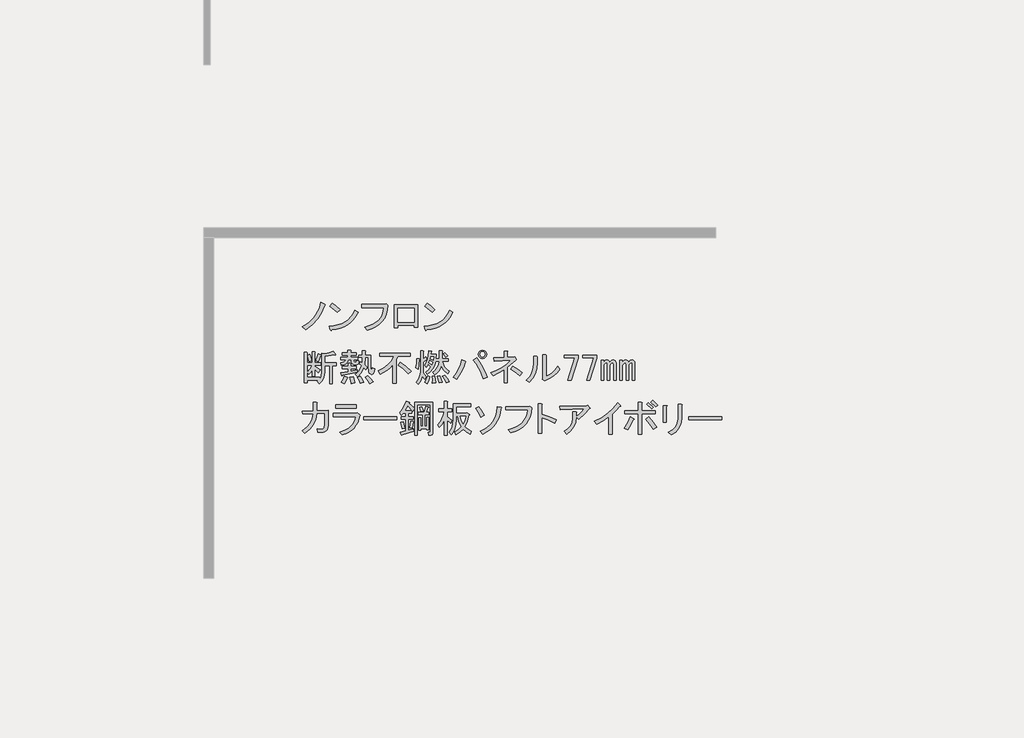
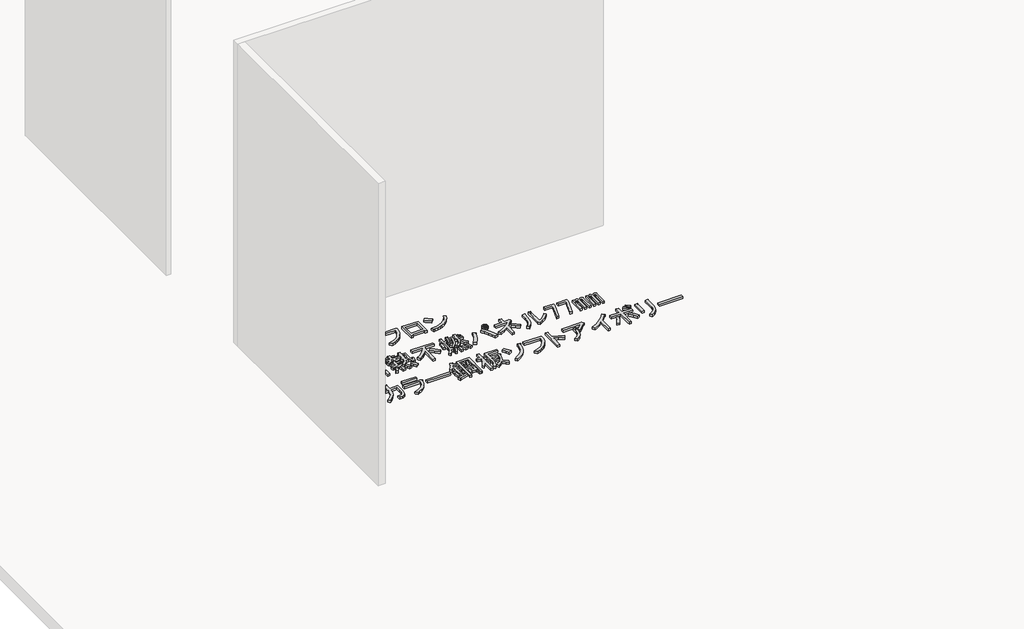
# One storey, part 6 of 117: 1 proxy.
"""IFC4 building model written with IfcOpenShell, lengths in millimetres."""

from ifc_helpers import new_model, si_unit, frame, origin, place, context, project, spatial, polyline, outline, extrude, element, save

model = new_model("IFC4")

# Units and contexts
model_context = context("Model", 3, world=origin())
ifc_project = project(units=[si_unit("LENGTHUNIT", "METRE", prefix="MILLI")], contexts=[model_context])

# Site, building, storey
site = spatial("IfcSite", under=ifc_project)
building = spatial("IfcBuilding", under=site)
storey = spatial("IfcBuildingStorey", under=building, Name="レベル 1", Elevation=500.0)

# Proxy
placement = place(None, origin())
element("IfcBuildingElementProxy", 1, Name="200㎜\u3000MS Pゴシック", ObjectType="200㎜\u3000MS Pゴシック", at=placement, inside=storey, context=model_context, shape_type="SweptSolid", body=[
    extrude(outline(polyline([(-23056.3293015, -28607.0496882), (-23081.9047498, -28666.8215225), (-23110.353844, -28712.7998566), (-23152.0217093, -28758.2034615), (-23201.1610538, -28795.560858), (-23228.7480543, -28773.7211493), (-23181.0455327, -28743.2605029), (-23141.3892195, -28704.7536481), (-23124.0036619, -28680.8305462), (-23108.6296565, -28652.7406577), (-23095.2672031, -28620.4839827), (-23083.9163019, -28584.0605212), (-23052.8809264, -28597.8540214), (-23049.7199159, -28602.4518548), (-23056.3293015, -28607.0496882)])), frame((0.0, 0.0, 500.0), z_axis=(0.0, 0.0, 1.0), x_axis=(1.0, 0.0, 0.0)), (0.0, 0.0, 1.0), 25.0),
    extrude(outline(polyline([(-22956.6022948, -28662.2236891), (-23015.2246708, -28615.0958967), (-22995.6838788, -28590.9572713), (-22968.3842429, -28610.7854279), (-22934.7625862, -28640.3839804), (-22956.6022948, -28662.2236891)])), frame((0.0, 0.0, 500.0), z_axis=(0.0, 0.0, 1.0), x_axis=(1.0, 0.0, 0.0)), (0.0, 0.0, 1.0), 25.0),
    extrude(outline(polyline([(-22794.5286672, -28662.2236891), (-22811.052131, -28691.965924), (-22830.1618761, -28717.9724192), (-22851.8579025, -28740.2431748), (-22876.1402102, -28758.7781907), (-22903.0087992, -28773.577467), (-22932.4636694, -28784.6410036), (-22964.504821, -28791.9688006), (-22999.1322539, -28795.560858), (-23004.8795456, -28803.6070664), (-23010.6268374, -28797.8597747), (-23019.8225042, -28767.9738575), (-22983.9917321, -28765.2977748), (-22951.2142088, -28758.9937141), (-22921.4899342, -28749.0616756), (-22894.8189084, -28735.5016591), (-22871.2011313, -28718.3136646), (-22850.636603, -28697.4976923), (-22833.1253234, -28673.053742), (-22818.6672926, -28644.9818138), (-22794.5286672, -28662.2236891)])), frame((0.0, 0.0, 500.0), z_axis=(0.0, 0.0, 1.0), x_axis=(1.0, 0.0, 0.0)), (0.0, 0.0, 1.0), 25.0),
    extrude(outline(polyline([(-22743.7685864, -28777.1695243), (-22709.985287, -28767.4889298), (-22680.4765359, -28755.1142922), (-22655.242333, -28740.0456116), (-22634.2826783, -28722.282888), (-22617.597572, -28701.8261214), (-22605.1870138, -28678.6753118), (-22597.0510039, -28652.8304591), (-22593.1895423, -28624.2915635), (-22765.6082951, -28624.2915635), (-22765.6082951, -28599.0034798), (-22590.8906256, -28599.0034798), (-22574.7982086, -28595.5551047), (-22562.1541668, -28607.0496882), (-22565.674383, -28643.5449909), (-22573.9361149, -28676.5919185), (-22586.9393625, -28706.1904711), (-22604.6841258, -28732.3406486), (-22627.1704048, -28755.042451), (-22654.3981995, -28774.2958784), (-22686.3675099, -28790.1009308), (-22723.078336, -28802.4576081), (-22743.7685864, -28777.1695243)])), frame((0.0, 0.0, 500.0), z_axis=(0.0, 0.0, 1.0), x_axis=(1.0, 0.0, 0.0)), (0.0, 0.0, 1.0), 25.0),
    extrude(outline(polyline([(-22329.044013, -28776.020066), (-22355.4815551, -28776.020066), (-22355.4815551, -28763.3760241), (-22483.0714321, -28763.3760241), (-22483.0714321, -28781.7673577), (-22509.5089742, -28781.7673577), (-22509.5089742, -28602.4518548), (-22329.044013, -28602.4518548), (-22329.044013, -28776.020066)]), holes=[polyline([(-22483.0714321, -28627.7399386), (-22483.0714321, -28738.0879404), (-22355.4815551, -28738.0879404), (-22355.4815551, -28627.7399386), (-22483.0714321, -28627.7399386)])]), frame((0.0, 0.0, 500.0), z_axis=(0.0, 0.0, 1.0), x_axis=(1.0, 0.0, 0.0)), (0.0, 0.0, 1.0), 25.0),
    extrude(outline(polyline([(-22052.9900951, -28662.2236891), (-22069.5135589, -28691.965924), (-22088.623304, -28717.9724192), (-22110.3193304, -28740.2431748), (-22134.6016381, -28758.7781907), (-22161.4702271, -28773.577467), (-22190.9250974, -28784.6410036), (-22222.9662489, -28791.9688006), (-22257.5936818, -28795.560858), (-22263.3409736, -28803.6070664), (-22269.0882653, -28797.8597747), (-22278.2839321, -28767.9738575), (-22242.4531601, -28765.2977748), (-22209.6756367, -28758.9937141), (-22179.9513622, -28749.0616756), (-22153.2803363, -28735.5016591), (-22129.6625593, -28718.3136646), (-22109.0980309, -28697.4976923), (-22091.5867514, -28673.053742), (-22077.1287205, -28644.9818138), (-22052.9900951, -28662.2236891)])), frame((0.0, 0.0, 500.0), z_axis=(0.0, 0.0, 1.0), x_axis=(1.0, 0.0, 0.0)), (0.0, 0.0, 1.0), 25.0),
    extrude(outline(polyline([(-22215.0637228, -28662.2236891), (-22273.6860987, -28615.0958967), (-22254.1453067, -28590.9572713), (-22226.8456709, -28610.7854279), (-22193.2240141, -28640.3839804), (-22215.0637228, -28662.2236891)])), frame((0.0, 0.0, 500.0), z_axis=(0.0, 0.0, 1.0), x_axis=(1.0, 0.0, 0.0)), (0.0, 0.0, 1.0), 25.0),
    extrude(outline(polyline([(-23122.9978859, -29039.2345221), (-23105.7560106, -28986.3594379), (-23085.0657603, -28992.1067296), (-23083.3415727, -28995.2677401), (-23087.364677, -28997.8540214), (-23104.6065523, -29046.1312722), (-23122.9978859, -29039.2345221)])), frame((0.0, 0.0, 500.0), z_axis=(0.0, 0.0, 1.0), x_axis=(1.0, 0.0, 0.0)), (0.0, 0.0, 1.0), 25.0),
    extrude(outline(polyline([(-22968.9704667, -28990.9572713), (-22970.6946542, -28995.5551047), (-22978.1661335, -28993.256188), (-23055.1798431, -29005.9002299), (-23055.1798431, -29055.326939), (-22963.2231749, -29055.326939), (-22963.2231749, -29077.1666477), (-22994.2585505, -29077.1666477), (-22994.2585505, -29217.4005666), (-23017.2477175, -29217.4005666), (-23017.2477175, -29077.1666477), (-23055.1798431, -29077.1666477), (-23055.1798431, -29126.5933568), (-23057.7661244, -29154.3958807), (-23065.5249683, -29179.1810764), (-23078.4563747, -29200.948944), (-23096.5603438, -29219.6994833), (-23113.8022191, -29200.1586914), (-23103.4570939, -29190.9630245), (-23193.1148454, -29190.9630245), (-23193.1148454, -29212.8027332), (-23216.1040124, -29212.8027332), (-23216.1040124, -28973.715396), (-23194.2643037, -28973.715396), (-23189.3791057, -28976.0143127), (-23193.1148454, -28980.6121461), (-23193.1148454, -29056.4763974), (-23150.5848863, -29056.4763974), (-23150.5848863, -28969.1175626), (-23132.1935527, -28969.1175626), (-23127.3083547, -28971.4164793), (-23131.0440943, -28976.0143127), (-23131.0440943, -29056.4763974), (-23087.364677, -29056.4763974), (-23087.364677, -29074.867731), (-23131.0440943, -29074.867731), (-23131.0440943, -29084.0633978), (-23090.813052, -29110.5009399), (-23104.6065523, -29132.3406486), (-23131.0440943, -29105.9031065), (-23131.0440943, -29158.7781907), (-23150.5848863, -29158.7781907), (-23150.5848863, -29110.5009399), (-23163.8036574, -29130.3290965), (-23178.1718868, -29146.1341488), (-23190.8159287, -29127.7428152), (-23168.97622, -29103.6041898), (-23151.7343447, -29074.867731), (-23193.1148454, -29074.867731), (-23193.1148454, -29169.1233159), (-23095.4108854, -29169.1233159), (-23095.4108854, -29182.9168161), (-23082.479479, -29158.7781907), (-23078.1690102, -29125.4438985), (-23078.1690102, -28980.6121461), (-23056.3293015, -28986.3594379), (-23020.1213634, -28978.8879586), (-22989.660717, -28965.6691875), (-22968.9704667, -28990.9572713)])), frame((0.0, 0.0, 500.0), z_axis=(0.0, 0.0, 1.0), x_axis=(1.0, 0.0, 0.0)), (0.0, 0.0, 1.0), 25.0),
    extrude(outline(polyline([(-23177.0224284, -29047.2807305), (-23189.6664703, -28996.7045631), (-23170.1256783, -28989.8078129), (-23162.3668344, -29013.9464383), (-23157.4816364, -29040.3839804), (-23177.0224284, -29047.2807305)])), frame((0.0, 0.0, 500.0), z_axis=(0.0, 0.0, 1.0), x_axis=(1.0, 0.0, 0.0)), (0.0, 0.0, 1.0), 25.0),
    extrude(outline(polyline([(-22878.1632569, -29167.9738575), (-22874.7148818, -29172.8590555), (-22880.4621736, -29176.020066), (-22890.2325696, -29201.5955143), (-22901.1524239, -29220.8489417), (-22924.141591, -29209.3543582), (-22911.4975491, -29185.790462), (-22901.1524239, -29158.7781907), (-22878.1632569, -29167.9738575)])), frame((0.0, 0.0, 500.0), z_axis=(0.0, 0.0, 1.0), x_axis=(1.0, 0.0, 0.0)), (0.0, 0.0, 1.0), 25.0),
    extrude(outline(polyline([(-22833.3343812, -29163.3760241), (-22823.2766206, -29190.67566), (-22818.3914226, -29212.8027332), (-22847.1278814, -29218.550025), (-22849.7141627, -29196.9976809), (-22857.4730066, -29166.8243992), (-22833.3343812, -29163.3760241)])), frame((0.0, 0.0, 500.0), z_axis=(0.0, 0.0, 1.0), x_axis=(1.0, 0.0, 0.0)), (0.0, 0.0, 1.0), 25.0),
    extrude(outline(polyline([(-22718.388546, -29157.6287323), (-22693.6751914, -29178.8937119), (-22674.7091286, -29203.6070664), (-22701.1466707, -29218.550025), (-22720.4000981, -29188.9514724), (-22739.0787963, -29169.1233159), (-22718.388546, -29157.6287323)])), frame((0.0, 0.0, 500.0), z_axis=(0.0, 0.0, 1.0), x_axis=(1.0, 0.0, 0.0)), (0.0, 0.0, 1.0), 25.0),
    extrude(outline(polyline([(-22777.0109219, -29216.2511083), (-22785.344495, -29191.5377537), (-22798.8506306, -29170.2727742), (-22778.1603803, -29162.2265657), (-22761.2058696, -29183.7789098), (-22749.4239215, -29207.0554415), (-22777.0109219, -29216.2511083)])), frame((0.0, 0.0, 500.0), z_axis=(0.0, 0.0, 1.0), x_axis=(1.0, 0.0, 0.0)), (0.0, 0.0, 1.0), 25.0),
    extrude(outline(polyline([(-22916.0953825, -29153.0308989), (-22918.1069346, -29157.9160969), (-22921.8426743, -29156.479274), (-22927.589966, -29132.3406486), (-22872.4159651, -29124.2944401), (-22872.4159651, -29101.3052731), (-22916.0953825, -29101.3052731), (-22916.0953825, -29082.9139395), (-22872.4159651, -29082.9139395), (-22872.4159651, -29059.9247724), (-22854.0246315, -29059.9247724), (-22849.1394335, -29062.2236891), (-22852.8751732, -29066.8215225), (-22852.8751732, -29082.9139395), (-22808.0462974, -29082.9139395), (-22808.0462974, -29101.3052731), (-22852.8751732, -29101.3052731), (-22852.8751732, -29120.8460651), (-22802.2990057, -29111.6503983), (-22802.2990057, -29127.7428152), (-22916.0953825, -29153.0308989)])), frame((0.0, 0.0, 500.0), z_axis=(0.0, 0.0, 1.0), x_axis=(1.0, 0.0, 0.0)), (0.0, 0.0, 1.0), 25.0),
    extrude(outline(polyline([(-22845.978423, -29031.1883136), (-22871.2665068, -29031.1883136), (-22875.8643402, -29048.6457123), (-22886.2094654, -29061.9363245), (-22902.3018823, -29071.0601502), (-22924.141591, -29076.0171893), (-22928.7394244, -29056.4763974), (-22903.4513406, -29047.8554597), (-22895.9798614, -29040.5276627), (-22891.9567571, -29031.1883136), (-22927.589966, -29031.1883136), (-22927.589966, -29012.79698), (-22873.5654235, -29012.79698), (-22873.5654235, -28995.5551047), (-22917.2448409, -28995.5551047), (-22917.2448409, -28977.1637711), (-22873.5654235, -28977.1637711), (-22873.5654235, -28958.7724374), (-22851.7257148, -28958.7724374), (-22846.8405168, -28961.0713541), (-22850.5762564, -28965.6691875), (-22850.5762564, -28977.1637711), (-22808.0462974, -28977.1637711), (-22808.0462974, -28995.5551047), (-22850.5762564, -28995.5551047), (-22850.5762564, -29012.79698), (-22797.7011723, -29012.79698), (-22797.7011723, -29031.1883136), (-22826.4376311, -29031.1883136), (-22826.4376311, -29043.8323555), (-22825.0008081, -29049.0049181), (-22820.6903393, -29050.7291056), (-22810.3452141, -29050.7291056), (-22806.6094745, -29047.5680951), (-22806.8968391, -29038.0850637), (-22787.3560471, -29040.3839804), (-22790.229693, -29061.9363245), (-22795.5459378, -29067.3244106), (-22803.448464, -29069.1204392), (-22827.5870894, -29069.1204392), (-22841.3805896, -29064.2352412), (-22845.978423, -29049.5796472), (-22845.978423, -29031.1883136)])), frame((0.0, 0.0, 500.0), z_axis=(0.0, 0.0, 1.0), x_axis=(1.0, 0.0, 0.0)), (0.0, 0.0, 1.0), 25.0),
    extrude(outline(polyline([(-22714.9401709, -29013.9464383), (-22736.7798796, -29013.9464383), (-22741.377713, -29071.4193559), (-22721.836921, -29089.8106896), (-22732.1820462, -29111.6503983), (-22748.2744631, -29095.5579813), (-22767.5278905, -29133.2027424), (-22797.7011723, -29165.6749408), (-22814.9430475, -29144.9846905), (-22799.8564067, -29133.0590601), (-22786.7813179, -29117.9724192), (-22775.7177813, -29099.7247679), (-22766.6657967, -29078.316106), (-22783.907672, -29063.3731475), (-22775.8614636, -29046.1312722), (-22762.0679633, -29056.4763974), (-22759.7690466, -29013.9464383), (-22787.3560471, -29013.9464383), (-22787.3560471, -28995.5551047), (-22759.7690466, -28995.5551047), (-22759.7690466, -28961.0713541), (-22737.9293379, -28961.0713541), (-22733.04414, -28963.3702708), (-22736.7798796, -28967.9681043), (-22736.7798796, -28995.5551047), (-22695.3993789, -28995.5551047), (-22695.3993789, -29092.1096063), (-22691.9510039, -29116.2482317), (-22688.7181523, -29118.2597838), (-22685.9163475, -29115.0987733), (-22681.6058787, -29093.2590646), (-22662.0650867, -29100.1558147), (-22666.591079, -29126.9525626), (-22674.421764, -29142.9731384), (-22685.5571418, -29148.2175421), (-22699.9972123, -29142.6857738), (-22706.5347567, -29135.3579768), (-22711.2044313, -29123.719711), (-22714.9401709, -29087.5117729), (-22714.9401709, -29013.9464383)])), frame((0.0, 0.0, 500.0), z_axis=(0.0, 0.0, 1.0), x_axis=(1.0, 0.0, 0.0)), (0.0, 0.0, 1.0), 25.0),
    extrude(outline(polyline([(-22626.4318778, -28980.6121461), (-22385.0456239, -28980.6121461), (-22385.0456239, -29005.9002299), (-22485.0485005, -29005.9002299), (-22495.3936257, -29030.0388553), (-22495.3936257, -29216.2511083), (-22521.8311678, -29216.2511083), (-22521.8311678, -29069.1204392), (-22542.6651004, -29092.3969709), (-22566.0853143, -29112.7998566), (-22592.0918095, -29130.3290965), (-22620.684586, -29144.9846905), (-22636.777003, -29118.5471484), (-22597.192531, -29098.1442626), (-22563.499033, -29072.5688143), (-22535.6965091, -29041.8208034), (-22513.7849593, -29005.9002299), (-22626.4318778, -29005.9002299), (-22626.4318778, -28980.6121461)])), frame((0.0, 0.0, 500.0), z_axis=(0.0, 0.0, 1.0), x_axis=(1.0, 0.0, 0.0)), (0.0, 0.0, 1.0), 25.0),
    extrude(outline(polyline([(-22399.9885824, -29141.5363154), (-22439.0701664, -29103.3168252), (-22480.4506671, -29073.7182726), (-22464.3582502, -29053.0280223), (-22420.6788328, -29081.1897519), (-22379.2983321, -29119.6966067), (-22399.9885824, -29141.5363154)])), frame((0.0, 0.0, 500.0), z_axis=(0.0, 0.0, 1.0), x_axis=(1.0, 0.0, 0.0)), (0.0, 0.0, 1.0), 25.0),
    extrude(outline(polyline([(-22232.167663, -29163.3760241), (-22240.7886007, -29193.8366704), (-22255.1568301, -29220.8489417), (-22274.6976221, -29208.2048998), (-22260.6167573, -29183.4915453), (-22250.5589967, -29155.3298156), (-22232.167663, -29163.3760241)])), frame((0.0, 0.0, 500.0), z_axis=(0.0, 0.0, 1.0), x_axis=(1.0, 0.0, 0.0)), (0.0, 0.0, 1.0), 25.0),
    extrude(outline(polyline([(-22317.2275811, -29025.4410219), (-22312.6297477, -29027.7399386), (-22317.2275811, -29032.337772), (-22318.3770395, -29071.9940851), (-22324.1243312, -29105.9031065), (-22342.5156648, -29093.2590646), (-22336.7683731, -29058.7753141), (-22335.6189147, -29021.9926468), (-22317.2275811, -29025.4410219)])), frame((0.0, 0.0, 500.0), z_axis=(0.0, 0.0, 1.0), x_axis=(1.0, 0.0, 0.0)), (0.0, 0.0, 1.0), 25.0),
    extrude(outline(polyline([(-22265.5019553, -29007.0496882), (-22256.3062884, -29024.2915635), (-22254.8694655, -29030.3262199), (-22259.7546635, -29030.0388553), (-22286.1922056, -29050.7291056), (-22286.1922056, -29134.6395653), (-22272.3987054, -29146.9962426), (-22260.9041219, -29163.3760241), (-22273.5481637, -29184.0662744), (-22291.9394974, -29158.7781907), (-22303.7214455, -29194.6987642), (-22325.2737896, -29224.2973168), (-22340.2167481, -29205.9059831), (-22325.1301073, -29187.1554438), (-22314.3539352, -29166.5370346), (-22307.888232, -29144.0507556), (-22305.7329976, -29119.6966067), (-22305.7329976, -28962.2208125), (-22287.3416639, -28962.2208125), (-22282.456466, -28964.5197292), (-22286.1922056, -28969.1175626), (-22286.1922056, -29027.7399386), (-22265.5019553, -29007.0496882)])), frame((0.0, 0.0, 500.0), z_axis=(0.0, 0.0, 1.0), x_axis=(1.0, 0.0, 0.0)), (0.0, 0.0, 1.0), 25.0),
    extrude(outline(polyline([(-22114.9229111, -28976.0143127), (-22093.0832025, -29000.1529381), (-22110.3250777, -29011.6475216), (-22116.9344633, -29000.1529381), (-22129.8658697, -28986.3594379), (-22114.9229111, -28976.0143127)])), frame((0.0, 0.0, 500.0), z_axis=(0.0, 0.0, 1.0), x_axis=(1.0, 0.0, 0.0)), (0.0, 0.0, 1.0), 25.0),
    extrude(outline(polyline([(-22104.577786, -29212.8027332), (-22117.796557, -29184.6410036), (-22134.4637031, -29159.927649), (-22116.0723695, -29151.8814406), (-22097.1063067, -29174.8706076), (-22081.5886189, -29202.4576081), (-22104.577786, -29212.8027332)])), frame((0.0, 0.0, 500.0), z_axis=(0.0, 0.0, 1.0), x_axis=(1.0, 0.0, 0.0)), (0.0, 0.0, 1.0), 25.0),
    extrude(outline(polyline([(-22154.0044951, -29157.6287323), (-22135.6131615, -29207.0554415), (-22159.7517869, -29211.6532749), (-22173.5452871, -29161.0771074), (-22154.0044951, -29157.6287323)])), frame((0.0, 0.0, 500.0), z_axis=(0.0, 0.0, 1.0), x_axis=(1.0, 0.0, 0.0)), (0.0, 0.0, 1.0), 25.0),
    extrude(outline(polyline([(-22212.6268711, -29215.1016499), (-22212.0521419, -29188.0893787), (-22214.9257878, -29159.927649), (-22195.3849958, -29158.7781907), (-22189.0629748, -29184.9283682), (-22188.4882457, -29212.8027332), (-22212.6268711, -29215.1016499)])), frame((0.0, 0.0, 500.0), z_axis=(0.0, 0.0, 1.0), x_axis=(1.0, 0.0, 0.0)), (0.0, 0.0, 1.0), 25.0),
    extrude(outline(polyline([(-22093.0832025, -29142.6857738), (-22123.8312134, -29112.2251274), (-22144.8088283, -29078.316106), (-22153.2142425, -29100.4431793), (-22164.6369849, -29119.6966067), (-22179.0770554, -29136.0763882), (-22196.5344541, -29149.5825239), (-22210.3279544, -29131.1911902), (-22189.4940217, -29112.2969686), (-22174.1200163, -29091.2475125), (-22164.205938, -29068.042822), (-22159.7517869, -29042.6828971), (-22188.4882457, -29042.6828971), (-22196.462613, -29073.2872258), (-22210.0405898, -29100.7305439), (-22229.222176, -29125.0128516), (-22254.0073717, -29146.1341488), (-22266.6514136, -29130.0417319), (-22240.7886007, -29108.4893878), (-22225.2709129, -29087.5117729), (-22247.1106216, -29067.9709809), (-22260.9041219, -29088.6612312), (-22274.6976221, -29073.7182726), (-22262.2691036, -29054.6803687), (-22252.5705488, -29029.7514907), (-22245.6019575, -28998.9316386), (-22241.3633299, -28962.2208125), (-22220.6730795, -28964.5197292), (-22217.2247045, -28967.1060105), (-22222.9719962, -28970.267021), (-22225.2709129, -28988.6583546), (-22181.5914956, -28988.6583546), (-22185.0398706, -29024.2915635), (-22159.7517869, -29024.2915635), (-22159.7517869, -28962.2208125), (-22137.9120782, -28962.2208125), (-22133.0268802, -28964.5197292), (-22136.7626198, -28969.1175626), (-22136.7626198, -29024.2915635), (-22087.3359107, -29024.2915635), (-22087.3359107, -29042.6828971), (-22136.7626198, -29042.6828971), (-22130.2250755, -29064.4507647), (-22118.6586508, -29084.9254916), (-22102.0633458, -29104.1070778), (-22080.4391606, -29121.9955234), (-22093.0832025, -29142.6857738)]), holes=[polyline([(-22217.2247045, -29072.5688143), (-22210.3279544, -29053.0280223), (-22235.6160381, -29036.9356054), (-22241.3633299, -29054.1774807), (-22217.2247045, -29072.5688143)]), polyline([(-22227.5698296, -29007.0496882), (-22231.0182047, -29023.1421052), (-22205.730121, -29036.9356054), (-22201.1322875, -29007.0496882), (-22227.5698296, -29007.0496882)])]), frame((0.0, 0.0, 500.0), z_axis=(0.0, 0.0, 1.0), x_axis=(1.0, 0.0, 0.0)), (0.0, 0.0, 1.0), 25.0),
    extrude(outline(polyline([(-21867.7893655, -29016.245355), (-21841.1362999, -29052.9561812), (-21818.6500209, -29090.6727833), (-21800.3305284, -29129.3951616), (-21786.1778225, -29169.1233159), (-21817.213198, -29179.468441), (-21832.6590446, -29136.3637528), (-21850.2601256, -29097.856898), (-21870.016441, -29063.9478766), (-21891.9279908, -29034.6366887), (-21867.7893655, -29016.245355)])), frame((0.0, 0.0, 500.0), z_axis=(0.0, 0.0, 1.0), x_axis=(1.0, 0.0, 0.0)), (0.0, 0.0, 1.0), 25.0),
    extrude(outline(polyline([(-21955.1482002, -29042.6828971), (-21951.125096, -29048.1428243), (-21957.4471169, -29053.0280223), (-21969.3727473, -29088.4457078), (-21984.4593882, -29122.282888), (-22002.7070395, -29154.539563), (-22024.1157013, -29185.2157328), (-22050.5532434, -29167.9738575), (-22027.3485529, -29136.5074351), (-22008.310649, -29103.0294606), (-21993.4395316, -29067.539934), (-21982.7352007, -29030.0388553), (-21955.1482002, -29042.6828971)])), frame((0.0, 0.0, 500.0), z_axis=(0.0, 0.0, 1.0), x_axis=(1.0, 0.0, 0.0)), (0.0, 0.0, 1.0), 25.0),
    extrude(outline(polyline([(-21821.8110314, -29021.9926468), (-21834.4550732, -29019.6937301), (-21844.8001984, -29012.79698), (-21851.6969485, -29002.4518548), (-21853.9958652, -28989.8078129), (-21851.6969485, -28977.1637711), (-21844.8001984, -28966.8186459), (-21834.4550732, -28959.9218958), (-21821.8110314, -28957.6229791), (-21809.1669895, -28959.9218958), (-21798.8218643, -28966.8186459), (-21791.9251142, -28977.1637711), (-21789.6261975, -28989.8078129), (-21791.9251142, -29002.4518548), (-21798.8218643, -29012.79698), (-21809.1669895, -29019.6937301), (-21821.8110314, -29021.9926468)]), holes=[polyline([(-21821.8110314, -29010.4980633), (-21813.4774583, -29009.0612403), (-21806.8680728, -29004.7507715), (-21802.557604, -28998.141386), (-21801.120781, -28989.8078129), (-21802.557604, -28981.4742399), (-21806.8680728, -28974.8648544), (-21813.4774583, -28970.5543855), (-21821.8110314, -28969.1175626), (-21830.1446044, -28970.5543855), (-21836.7539899, -28974.8648544), (-21841.0644588, -28981.4742399), (-21842.5012817, -28989.8078129), (-21841.0644588, -28998.141386), (-21836.7539899, -29004.7507715), (-21830.1446044, -29009.0612403), (-21821.8110314, -29010.4980633)])]), frame((0.0, 0.0, 500.0), z_axis=(0.0, 0.0, 1.0), x_axis=(1.0, 0.0, 0.0)), (0.0, 0.0, 1.0), 25.0),
    extrude(outline(polyline([(-21578.1258607, -29011.6475216), (-21571.2291106, -29009.3486049), (-21558.5850688, -29026.5904802), (-21557.4356104, -29032.6251366), (-21563.1829022, -29034.6366887), (-21626.4031115, -29090.9601479), (-21626.4031115, -29211.6532749), (-21652.8406536, -29211.6532749), (-21652.8406536, -29109.3514816), (-21693.0716959, -29133.4901069), (-21737.9005717, -29155.3298156), (-21757.4413637, -29134.6395653), (-21711.8940765, -29115.1706145), (-21670.6572581, -29092.3969709), (-21633.7309085, -29066.3186345), (-21601.1150278, -29036.9356054), (-21731.0038216, -29042.6828971), (-21734.4521966, -29017.3948134), (-21652.8406536, -29015.0958967), (-21652.8406536, -28963.3702708), (-21629.8514866, -28963.3702708), (-21623.8168302, -28966.8186459), (-21626.4031115, -28972.5659377), (-21626.4031115, -29013.9464383), (-21578.1258607, -29011.6475216)])), frame((0.0, 0.0, 500.0), z_axis=(0.0, 0.0, 1.0), x_axis=(1.0, 0.0, 0.0)), (0.0, 0.0, 1.0), 25.0),
    extrude(outline(polyline([(-21532.1475267, -29155.3298156), (-21569.2175585, -29126.0186277), (-21602.2644861, -29104.7536481), (-21585.0226108, -29082.9139395), (-21546.2283915, -29106.1904711), (-21512.6067347, -29132.3406486), (-21532.1475267, -29155.3298156)])), frame((0.0, 0.0, 500.0), z_axis=(0.0, 0.0, 1.0), x_axis=(1.0, 0.0, 0.0)), (0.0, 0.0, 1.0), 25.0),
    extrude(outline(polyline([(-21325.1530666, -29162.2265657), (-21300.3678709, -29150.0135708), (-21276.5884512, -29132.9153778), (-21253.8148076, -29110.9319868), (-21232.0469401, -29084.0633978), (-21215.9545232, -29105.9031065), (-21239.2310548, -29133.7056304), (-21265.3812323, -29157.3413678), (-21294.4050557, -29176.8103186), (-21326.302525, -29192.1124829), (-21335.4981918, -29196.7103163), (-21353.8895254, -29182.9168161), (-21351.5906087, -29177.1695243), (-21351.5906087, -28992.1067296), (-21327.4519833, -28992.1067296), (-21321.7046916, -28995.5551047), (-21325.1530666, -29001.3023965), (-21325.1530666, -29162.2265657)])), frame((0.0, 0.0, 500.0), z_axis=(0.0, 0.0, 1.0), x_axis=(1.0, 0.0, 0.0)), (0.0, 0.0, 1.0), 25.0),
    extrude(outline(polyline([(-21479.1804858, -29193.2619413), (-21454.0360843, -29164.0225944), (-21436.0757976, -29131.4785548), (-21425.2996255, -29095.6298225), (-21421.7075682, -29056.4763974), (-21421.7075682, -29004.7507715), (-21397.5689428, -29004.7507715), (-21391.821651, -29008.1991466), (-21395.2700261, -29013.9464383), (-21395.2700261, -29055.326939), (-21399.0776069, -29101.0897496), (-21410.5003493, -29141.82368), (-21429.5382532, -29177.5287301), (-21456.1913188, -29208.2048998), (-21479.1804858, -29193.2619413)])), frame((0.0, 0.0, 500.0), z_axis=(0.0, 0.0, 1.0), x_axis=(1.0, 0.0, 0.0)), (0.0, 0.0, 1.0), 25.0),
    extrude(outline(polyline([(-21183.7696893, -28995.5551047), (-21074.5711459, -28995.5551047), (-21074.5711459, -29020.8431884), (-21129.7451468, -29192.1124829), (-21155.0332305, -29192.1124829), (-21099.8592296, -29017.3948134), (-21183.7696893, -29017.3948134), (-21183.7696893, -28995.5551047)])), frame((0.0, 0.0, 500.0), z_axis=(0.0, 0.0, 1.0), x_axis=(1.0, 0.0, 0.0)), (0.0, 0.0, 1.0), 25.0),
    extrude(outline(polyline([(-21036.6390203, -28995.5551047), (-20927.4404768, -28995.5551047), (-20927.4404768, -29020.8431884), (-20982.6144777, -29192.1124829), (-21007.9025615, -29192.1124829), (-20952.7285606, -29017.3948134), (-21036.6390203, -29017.3948134), (-21036.6390203, -28995.5551047)])), frame((0.0, 0.0, 500.0), z_axis=(0.0, 0.0, 1.0), x_axis=(1.0, 0.0, 0.0)), (0.0, 0.0, 1.0), 25.0),
    extrude(outline(polyline([(-20874.5653926, -29193.2619413), (-20894.1061846, -29193.2619413), (-20894.1061846, -29035.786147), (-20874.5653926, -29035.786147), (-20874.5653926, -29053.0280223), (-20862.4960799, -29037.5103346), (-20849.2773089, -29032.337772), (-20840.0816421, -29033.7745949), (-20833.1848919, -29038.0850637), (-20826.2881418, -29051.878564), (-20813.3567354, -29037.22297), (-20799.8505997, -29032.337772), (-20791.5170267, -29033.7745949), (-20784.9076412, -29038.0850637), (-20779.7350786, -29046.7060014), (-20778.010891, -29058.7753141), (-20778.010891, -29193.2619413), (-20797.551683, -29193.2619413), (-20797.551683, -29069.1204392), (-20800.1379643, -29059.6374078), (-20807.8968082, -29056.4763974), (-20818.2419334, -29061.0742308), (-20824.2765897, -29069.6951684), (-20826.2881418, -29079.4655644), (-20826.2881418, -29193.2619413), (-20845.8289338, -29193.2619413), (-20845.8289338, -29069.1204392), (-20848.4152151, -29059.6374078), (-20856.174059, -29056.4763974), (-20866.5191842, -29061.0742308), (-20872.5538405, -29069.6951684), (-20874.5653926, -29079.4655644), (-20874.5653926, -29193.2619413)])), frame((0.0, 0.0, 500.0), z_axis=(0.0, 0.0, 1.0), x_axis=(1.0, 0.0, 0.0)), (0.0, 0.0, 1.0), 25.0),
    extrude(outline(polyline([(-20652.7199307, -29032.337772), (-20644.3863576, -29033.7745949), (-20637.7769721, -29038.0850637), (-20632.6044095, -29046.7060014), (-20630.880222, -29058.7753141), (-20630.880222, -29193.2619413), (-20650.421014, -29193.2619413), (-20650.421014, -29069.1204392), (-20653.0072953, -29059.6374078), (-20660.7661391, -29056.4763974), (-20671.1112643, -29061.0742308), (-20677.1459207, -29069.6951684), (-20679.1574728, -29079.4655644), (-20679.1574728, -29193.2619413), (-20698.6982648, -29193.2619413), (-20698.6982648, -29069.1204392), (-20701.284546, -29059.6374078), (-20709.0433899, -29056.4763974), (-20719.3885151, -29061.0742308), (-20725.4231714, -29069.6951684), (-20727.4347236, -29079.4655644), (-20727.4347236, -29193.2619413), (-20746.9755155, -29193.2619413), (-20746.9755155, -29035.786147), (-20727.4347236, -29035.786147), (-20727.4347236, -29053.0280223), (-20715.3654109, -29037.5103346), (-20702.1466398, -29032.337772), (-20692.950973, -29033.7745949), (-20686.0542229, -29038.0850637), (-20679.1574728, -29051.878564), (-20666.2260663, -29037.22297), (-20652.7199307, -29032.337772)])), frame((0.0, 0.0, 500.0), z_axis=(0.0, 0.0, 1.0), x_axis=(1.0, 0.0, 0.0)), (0.0, 0.0, 1.0), 25.0),
    extrude(outline(polyline([(-23052.8809264, -29450.7291056), (-23118.4000525, -29453.0280223), (-23126.6617844, -29499.293721), (-23144.55023, -29540.3868571), (-23172.0653893, -29576.3074306), (-23209.2072623, -29607.0554415), (-23228.7480543, -29587.5146495), (-23193.7614157, -29559.2810787), (-23168.1141262, -29527.4554506), (-23151.8061858, -29492.0377651), (-23144.8375946, -29453.0280223), (-23226.4491376, -29455.326939), (-23228.7480543, -29432.337772), (-23143.6881362, -29430.0388553), (-23143.6881362, -29365.6691875), (-23119.5495108, -29365.6691875), (-23112.6527607, -29369.1175626), (-23117.2505941, -29374.8648544), (-23117.2505941, -29430.0388553), (-23026.4433843, -29426.5904802), (-23026.4433843, -29497.856898), (-23029.0296656, -29545.8467842), (-23036.7885095, -29577.1695243), (-23043.397895, -29587.2272849), (-23052.8809264, -29594.4113996), (-23065.2376037, -29598.7218684), (-23080.4679269, -29600.1586914), (-23108.0549273, -29600.1586914), (-23111.5033024, -29571.4222326), (-23081.6173852, -29573.7211493), (-23067.5365204, -29570.8475034), (-23059.7776765, -29562.2265657), (-23054.6051139, -29536.938482), (-23052.8809264, -29497.856898), (-23052.8809264, -29450.7291056)])), frame((0.0, 0.0, 500.0), z_axis=(0.0, 0.0, 1.0), x_axis=(1.0, 0.0, 0.0)), (0.0, 0.0, 1.0), 25.0),
    extrude(outline(polyline([(-22808.1382541, -29410.4980633), (-22966.7635067, -29410.4980633), (-22966.7635067, -29385.2099795), (-22808.1382541, -29385.2099795), (-22808.1382541, -29410.4980633)])), frame((0.0, 0.0, 500.0), z_axis=(0.0, 0.0, 1.0), x_axis=(1.0, 0.0, 0.0)), (0.0, 0.0, 1.0), 25.0),
    extrude(outline(polyline([(-22938.0270479, -29596.7103163), (-22888.3848153, -29578.3908238), (-22868.1435721, -29566.2676303), (-22850.9555777, -29552.1688052), (-22836.820832, -29536.0943485), (-22825.7393351, -29518.0442603), (-22817.7110869, -29498.0185406), (-22812.7360875, -29476.0171893), (-22987.453757, -29476.0171893), (-22987.453757, -29450.7291056), (-22811.5866291, -29450.7291056), (-22801.241504, -29447.2807305), (-22780.5512536, -29459.9247724), (-22777.6776078, -29465.3846996), (-22782.8501703, -29470.2698976), (-22788.9746281, -29497.7491363), (-22798.1523347, -29522.7139349), (-22810.3832899, -29545.1642933), (-22825.667494, -29565.1002116), (-22844.0049467, -29582.5216898), (-22865.3956483, -29597.4287278), (-22889.8395985, -29609.8213256), (-22917.3367975, -29619.6994833), (-22938.0270479, -29596.7103163)])), frame((0.0, 0.0, 500.0), z_axis=(0.0, 0.0, 1.0), x_axis=(1.0, 0.0, 0.0)), (0.0, 0.0, 1.0), 25.0),
    extrude(outline(polyline([(-22749.1020731, -29501.3052731), (-22749.1020731, -29476.0171893), (-22492.7728606, -29476.0171893), (-22492.7728606, -29501.3052731), (-22749.1020731, -29501.3052731)])), frame((0.0, 0.0, 500.0), z_axis=(0.0, 0.0, 1.0), x_axis=(1.0, 0.0, 0.0)), (0.0, 0.0, 1.0), 25.0),
    extrude(outline(polyline([(-22244.7657266, -29399.0034798), (-22242.1794453, -29402.4518548), (-22248.2141016, -29405.9002299), (-22260.8581435, -29443.8323555), (-22240.1678932, -29443.8323555), (-22240.1678932, -29462.2236891), (-22271.2032687, -29462.2236891), (-22271.2032687, -29550.7319822), (-22256.2603101, -29550.7319822), (-22256.2603101, -29482.9139395), (-22240.1678932, -29482.9139395), (-22240.1678932, -29577.1695243), (-22256.2603101, -29577.1695243), (-22256.2603101, -29569.1233159), (-22302.2386442, -29569.1233159), (-22302.2386442, -29581.7673577), (-22318.3310611, -29581.7673577), (-22318.3310611, -29485.2128562), (-22302.2386442, -29485.2128562), (-22302.2386442, -29550.7319822), (-22287.2956856, -29550.7319822), (-22287.2956856, -29462.2236891), (-22322.9288945, -29462.2236891), (-22322.9288945, -29443.8323555), (-22276.9505604, -29443.8323555), (-22266.6054353, -29394.4056463), (-22244.7657266, -29399.0034798)])), frame((0.0, 0.0, 500.0), z_axis=(0.0, 0.0, 1.0), x_axis=(1.0, 0.0, 0.0)), (0.0, 0.0, 1.0), 25.0),
    extrude(outline(polyline([(-22350.515895, -29365.6691875), (-22210.281976, -29365.6691875), (-22210.281976, -29605.9059831), (-22214.0177157, -29617.1132021), (-22225.2249346, -29620.8489417), (-22241.3173515, -29620.8489417), (-22245.9151849, -29599.009233), (-22234.4206014, -29599.009233), (-22230.9722264, -29597.8597747), (-22229.822768, -29594.4113996), (-22229.822768, -29384.0605212), (-22330.975103, -29384.0605212), (-22330.975103, -29623.1478584), (-22350.515895, -29623.1478584), (-22350.515895, -29365.6691875)])), frame((0.0, 0.0, 500.0), z_axis=(0.0, 0.0, 1.0), x_axis=(1.0, 0.0, 0.0)), (0.0, 0.0, 1.0), 25.0),
    extrude(outline(polyline([(-22297.6408108, -29397.8540214), (-22290.4566961, -29413.0843446), (-22284.9967689, -29433.4872303), (-22302.2386442, -29439.2345221), (-22313.7332277, -29402.4518548), (-22297.6408108, -29397.8540214)])), frame((0.0, 0.0, 500.0), z_axis=(0.0, 0.0, 1.0), x_axis=(1.0, 0.0, 0.0)), (0.0, 0.0, 1.0), 25.0),
    extrude(outline(polyline([(-22362.0104785, -29513.949315), (-22359.4241972, -29517.1103254), (-22363.1599368, -29519.6966067), (-22371.2061453, -29566.8243992), (-22389.5974789, -29564.5254825), (-22383.8501872, -29510.5009399), (-22362.0104785, -29513.949315)])), frame((0.0, 0.0, 500.0), z_axis=(0.0, 0.0, 1.0), x_axis=(1.0, 0.0, 0.0)), (0.0, 0.0, 1.0), 25.0),
    extrude(outline(polyline([(-22439.0241881, -29515.0987733), (-22427.5296046, -29566.8243992), (-22448.2198549, -29572.5716909), (-22459.7144384, -29520.8460651), (-22439.0241881, -29515.0987733)])), frame((0.0, 0.0, 500.0), z_axis=(0.0, 0.0, 1.0), x_axis=(1.0, 0.0, 0.0)), (0.0, 0.0, 1.0), 25.0),
    extrude(outline(polyline([(-22365.4588536, -29434.6366887), (-22406.8393542, -29390.9572713), (-22428.6790629, -29430.0388553), (-22373.505062, -29430.0388553), (-22373.505062, -29448.4301889), (-22399.9426041, -29448.4301889), (-22399.9426041, -29477.1666477), (-22362.0104785, -29477.1666477), (-22362.0104785, -29495.5579813), (-22399.9426041, -29495.5579813), (-22399.9426041, -29582.9168161), (-22360.8610201, -29572.5716909), (-22358.5621034, -29592.1124829), (-22450.5187716, -29617.4005666), (-22452.8176883, -29623.1478584), (-22457.4155217, -29619.6994833), (-22464.3122718, -29596.7103163), (-22419.4833961, -29587.5146495), (-22419.4833961, -29495.5579813), (-22457.4155217, -29495.5579813), (-22457.4155217, -29477.1666477), (-22419.4833961, -29477.1666477), (-22419.4833961, -29448.4301889), (-22441.3231048, -29448.4301889), (-22456.2660634, -29466.8215225), (-22468.9101052, -29446.1312722), (-22440.7483756, -29408.4865112), (-22416.035021, -29357.6229791), (-22394.1953124, -29363.3702708), (-22390.7469373, -29367.1060105), (-22396.4942291, -29369.1175626), (-22397.6436874, -29372.5659377), (-22352.8148117, -29410.4980633), (-22365.4588536, -29434.6366887)])), frame((0.0, 0.0, 500.0), z_axis=(0.0, 0.0, 1.0), x_axis=(1.0, 0.0, 0.0)), (0.0, 0.0, 1.0), 25.0),
    extrude(outline(polyline([(-22039.0126816, -29594.4113996), (-22010.2762228, -29577.1695243), (-21988.4365141, -29555.3298156), (-22006.2531185, -29513.3745858), (-22016.0235145, -29472.5688143), (-22028.6675564, -29472.5688143), (-22028.6675564, -29496.7074397), (-22031.1101554, -29538.4471461), (-22038.4379524, -29572.8590555), (-22050.6509474, -29599.9431679), (-22067.7491404, -29619.6994833), (-22081.5426406, -29596.7103163), (-22068.4675518, -29579.3247587), (-22059.1282027, -29557.0540032), (-22053.5245933, -29529.8980496), (-22051.6567234, -29497.856898), (-22051.6567234, -29377.1637711), (-21914.8711796, -29377.1637711), (-21914.8711796, -29399.0034798), (-22028.6675564, -29399.0034798), (-22028.6675564, -29450.7291056), (-21949.3549301, -29450.7291056), (-21943.6076384, -29444.9818138), (-21924.0668464, -29458.7753141), (-21922.6300234, -29462.5110537), (-21927.5152214, -29466.8215225), (-21939.8718987, -29513.3745858), (-21958.5505969, -29554.1803573), (-21939.5845341, -29572.5716909), (-21907.9744294, -29590.9630245), (-21917.1700963, -29615.1016499), (-21945.0444613, -29599.009233), (-21973.4935555, -29573.7211493), (-21997.9195455, -29598.1471392), (-22029.8170148, -29618.550025), (-22039.0126816, -29594.4113996)]), holes=[polyline([(-21994.1838058, -29472.5688143), (-21986.1375974, -29505.6157419), (-21973.4935555, -29533.4901069), (-21960.8495136, -29507.3399294), (-21952.8033052, -29472.5688143), (-21994.1838058, -29472.5688143)])]), frame((0.0, 0.0, 500.0), z_axis=(0.0, 0.0, 1.0), x_axis=(1.0, 0.0, 0.0)), (0.0, 0.0, 1.0), 25.0),
    extrude(outline(polyline([(-22121.7736829, -29623.1478584), (-22121.7736829, -29503.6041898), (-22139.5902874, -29537.8005758), (-22158.5563502, -29559.927649), (-22170.0509337, -29539.2373987), (-22152.8090584, -29516.5355963), (-22139.0155582, -29492.1096063), (-22128.670433, -29465.9594288), (-22121.7736829, -29438.0850637), (-22163.1541836, -29438.0850637), (-22163.1541836, -29416.245355), (-22121.7736829, -29416.245355), (-22121.7736829, -29356.4735207), (-22099.9339742, -29356.4735207), (-22095.0487762, -29358.7724374), (-22098.7845159, -29363.3702708), (-22098.7845159, -29416.245355), (-22060.8523903, -29416.245355), (-22060.8523903, -29438.0850637), (-22098.7845159, -29438.0850637), (-22098.7845159, -29478.316106), (-22060.8523903, -29504.7536481), (-22071.1975154, -29527.7428152), (-22098.7845159, -29504.7536481), (-22098.7845159, -29623.1478584), (-22121.7736829, -29623.1478584)])), frame((0.0, 0.0, 500.0), z_axis=(0.0, 0.0, 1.0), x_axis=(1.0, 0.0, 0.0)), (0.0, 0.0, 1.0), 25.0),
    extrude(outline(polyline([(-21835.5585533, -29479.4655644), (-21855.961439, -29440.0966158), (-21875.7895956, -29411.6475216), (-21850.5015118, -29397.8540214), (-21830.3859907, -29426.5904802), (-21809.1210112, -29464.5226058), (-21835.5585533, -29479.4655644)])), frame((0.0, 0.0, 500.0), z_axis=(0.0, 0.0, 1.0), x_axis=(1.0, 0.0, 0.0)), (0.0, 0.0, 1.0), 25.0),
    extrude(outline(polyline([(-21741.3029684, -29517.39769), (-21729.1618145, -29496.5637574), (-21719.1758951, -29469.6951684), (-21711.3452101, -29436.7919231), (-21705.6697595, -29397.8540214), (-21676.9333007, -29402.4518548), (-21672.0481027, -29406.1875945), (-21678.082759, -29412.79698), (-21683.3271628, -29448.1428243), (-21692.1636238, -29480.6150228), (-21704.5921423, -29510.2135753), (-21720.6127181, -29536.938482), (-21736.705135, -29555.9045448), (-21758.5448437, -29574.8706076), (-21819.4661363, -29612.8027332), (-21840.1563867, -29592.1124829), (-21809.4083758, -29576.2355894), (-21782.6834691, -29558.4908261), (-21759.9816666, -29538.878193), (-21741.3029684, -29517.39769)])), frame((0.0, 0.0, 500.0), z_axis=(0.0, 0.0, 1.0), x_axis=(1.0, 0.0, 0.0)), (0.0, 0.0, 1.0), 25.0),
    extrude(outline(polyline([(-21619.6902747, -29577.1695243), (-21585.9069754, -29567.4889298), (-21556.3982242, -29555.1142922), (-21531.1640214, -29540.0456116), (-21510.2043667, -29522.282888), (-21493.5192603, -29501.8261214), (-21481.1087022, -29478.6753118), (-21472.9726923, -29452.8304591), (-21469.1112306, -29424.2915635), (-21641.5299834, -29424.2915635), (-21641.5299834, -29399.0034798), (-21466.8123139, -29399.0034798), (-21450.719897, -29395.5551047), (-21438.0758551, -29407.0496882), (-21441.5960713, -29443.5449909), (-21449.8578032, -29476.5919185), (-21462.8610508, -29506.1904711), (-21480.6058141, -29532.3406486), (-21503.0920932, -29555.042451), (-21530.3198879, -29574.2958784), (-21562.2891983, -29590.1009308), (-21599.0000244, -29602.4576081), (-21619.6902747, -29577.1695243)])), frame((0.0, 0.0, 500.0), z_axis=(0.0, 0.0, 1.0), x_axis=(1.0, 0.0, 0.0)), (0.0, 0.0, 1.0), 25.0),
    extrude(outline(polyline([(-21357.8436622, -29457.6258557), (-21301.2328383, -29476.5919185), (-21244.0472853, -29501.3052731), (-21257.8407855, -29527.7428152), (-21313.302151, -29501.8800023), (-21357.8436622, -29486.3623145), (-21357.8436622, -29605.9059831), (-21384.2812042, -29605.9059831), (-21384.2812042, -29376.0143127), (-21361.2920372, -29376.0143127), (-21353.5331933, -29378.8879586), (-21357.8436622, -29385.2099795), (-21357.8436622, -29457.6258557)])), frame((0.0, 0.0, 500.0), z_axis=(0.0, 0.0, 1.0), x_axis=(1.0, 0.0, 0.0)), (0.0, 0.0, 1.0), 25.0),
    extrude(outline(polyline([(-21089.5600828, -29478.316106), (-21093.3676636, -29519.5529244), (-21107.0893227, -29555.9045448), (-21130.72506, -29587.3709672), (-21164.2748757, -29613.9521916), (-21183.8156677, -29592.1124829), (-21154.1452739, -29571.8532794), (-21132.9521356, -29547.8583363), (-21120.2362526, -29520.1276536), (-21115.9976249, -29488.6612312), (-21115.9976249, -29439.2345221), (-21091.8589995, -29439.2345221), (-21086.1117077, -29441.8208034), (-21089.5600828, -29447.2807305), (-21089.5600828, -29477.1666477), (-21053.0647801, -29446.4186368), (-21026.3398734, -29416.245355), (-21213.7015848, -29423.1421052), (-21216.0005015, -29396.7045631), (-21006.7990814, -29390.9572713), (-20998.752873, -29388.6583546), (-20981.5109977, -29409.3486049), (-20981.2236331, -29412.5096154), (-20987.2582895, -29412.79698), (-21025.1904151, -29456.1890328), (-21070.0192908, -29496.7074397), (-21089.5600828, -29478.316106)])), frame((0.0, 0.0, 500.0), z_axis=(0.0, 0.0, 1.0), x_axis=(1.0, 0.0, 0.0)), (0.0, 0.0, 1.0), 25.0),
    extrude(outline(polyline([(-20947.7169221, -29511.6503983), (-20891.0342572, -29483.7760332), (-20841.6793892, -29450.7291056), (-20799.6523182, -29412.5096154), (-20764.9530442, -29369.1175626), (-20743.1133355, -29387.5088962), (-20740.5270542, -29393.5435526), (-20751.1595439, -29397.8540214), (-20776.1602631, -29426.8778448), (-20807.4830032, -29456.4763974), (-20807.4830032, -29612.8027332), (-20833.9205453, -29612.8027332), (-20833.9205453, -29478.316106), (-20877.5999627, -29507.9146586), (-20928.1761302, -29534.6395653), (-20947.7169221, -29511.6503983)])), frame((0.0, 0.0, 500.0), z_axis=(0.0, 0.0, 1.0), x_axis=(1.0, 0.0, 0.0)), (0.0, 0.0, 1.0), 25.0),
    extrude(outline(polyline([(-20639.7540405, -29492.1096063), (-20637.4551238, -29496.9948043), (-20644.3518739, -29500.1558147), (-20663.8926659, -29538.9500341), (-20688.0312912, -29579.468441), (-20713.319375, -29565.6749408), (-20686.8818329, -29523.1449818), (-20665.0421242, -29478.316106), (-20639.7540405, -29492.1096063)])), frame((0.0, 0.0, 500.0), z_axis=(0.0, 0.0, 1.0), x_axis=(1.0, 0.0, 0.0)), (0.0, 0.0, 1.0), 25.0),
    extrude(outline(polyline([(-20500.6695799, -29416.245355), (-20538.6017055, -29380.6121461), (-20524.8082053, -29366.8186459), (-20486.8760796, -29401.3023965), (-20500.6695799, -29416.245355)])), frame((0.0, 0.0, 500.0), z_axis=(0.0, 0.0, 1.0), x_axis=(1.0, 0.0, 0.0)), (0.0, 0.0, 1.0), 25.0),
    extrude(outline(polyline([(-20468.484746, -29400.1529381), (-20506.4168716, -29362.2208125), (-20491.473913, -29349.5767706), (-20453.5417874, -29386.3594379), (-20468.484746, -29400.1529381)])), frame((0.0, 0.0, 500.0), z_axis=(0.0, 0.0, 1.0), x_axis=(1.0, 0.0, 0.0)), (0.0, 0.0, 1.0), 25.0),
    extrude(outline(polyline([(-20523.6587469, -29478.316106), (-20487.4508088, -29520.2713359), (-20461.5879959, -29558.7781907), (-20486.8760796, -29576.020066), (-20513.6009863, -29534.9269299), (-20545.4984556, -29496.7074397), (-20523.6587469, -29478.316106)])), frame((0.0, 0.0, 500.0), z_axis=(0.0, 0.0, 1.0), x_axis=(1.0, 0.0, 0.0)), (0.0, 0.0, 1.0), 25.0),
    extrude(outline(polyline([(-20578.8327478, -29428.8893969), (-20473.0825794, -29428.8893969), (-20473.0825794, -29454.1774807), (-20578.8327478, -29454.1774807), (-20578.8327478, -29613.9521916), (-20605.2702899, -29613.9521916), (-20605.2702899, -29454.1774807), (-20708.7215416, -29454.1774807), (-20708.7215416, -29428.8893969), (-20605.2702899, -29428.8893969), (-20605.2702899, -29364.5197292), (-20581.1316645, -29364.5197292), (-20574.2349144, -29367.9681043), (-20578.8327478, -29373.715396), (-20578.8327478, -29428.8893969)])), frame((0.0, 0.0, 500.0), z_axis=(0.0, 0.0, 1.0), x_axis=(1.0, 0.0, 0.0)), (0.0, 0.0, 1.0), 25.0),
    extrude(outline(polyline([(-20384.3443946, -29519.6966067), (-20410.7819367, -29519.6966067), (-20410.7819367, -29389.8078129), (-20385.493853, -29389.8078129), (-20379.4591966, -29392.6814588), (-20384.3443946, -29399.0034798), (-20384.3443946, -29519.6966067)])), frame((0.0, 0.0, 500.0), z_axis=(0.0, 0.0, 1.0), x_axis=(1.0, 0.0, 0.0)), (0.0, 0.0, 1.0), 25.0),
    extrude(outline(polyline([(-20265.9501844, -29494.408523), (-20270.9790647, -29534.495883), (-20286.0657055, -29568.5485867), (-20311.210107, -29596.566634), (-20346.412269, -29618.550025), (-20369.4014361, -29599.009233), (-20336.138985, -29579.468441), (-20312.215883, -29555.3298156), (-20297.6321302, -29526.5933568), (-20292.3877265, -29493.2590646), (-20292.3877265, -29378.3132294), (-20268.2491011, -29378.3132294), (-20261.9270801, -29381.7616045), (-20265.9501844, -29387.5088962), (-20265.9501844, -29494.408523)])), frame((0.0, 0.0, 500.0), z_axis=(0.0, 0.0, 1.0), x_axis=(1.0, 0.0, 0.0)), (0.0, 0.0, 1.0), 25.0),
    extrude(outline(polyline([(-20209.6267251, -29501.3052731), (-20209.6267251, -29476.0171893), (-19953.2975126, -29476.0171893), (-19953.2975126, -29501.3052731), (-20209.6267251, -29501.3052731)])), frame((0.0, 0.0, 500.0), z_axis=(0.0, 0.0, 1.0), x_axis=(1.0, 0.0, 0.0)), (0.0, 0.0, 1.0), 25.0),
])

save(model, "model.ifc")
